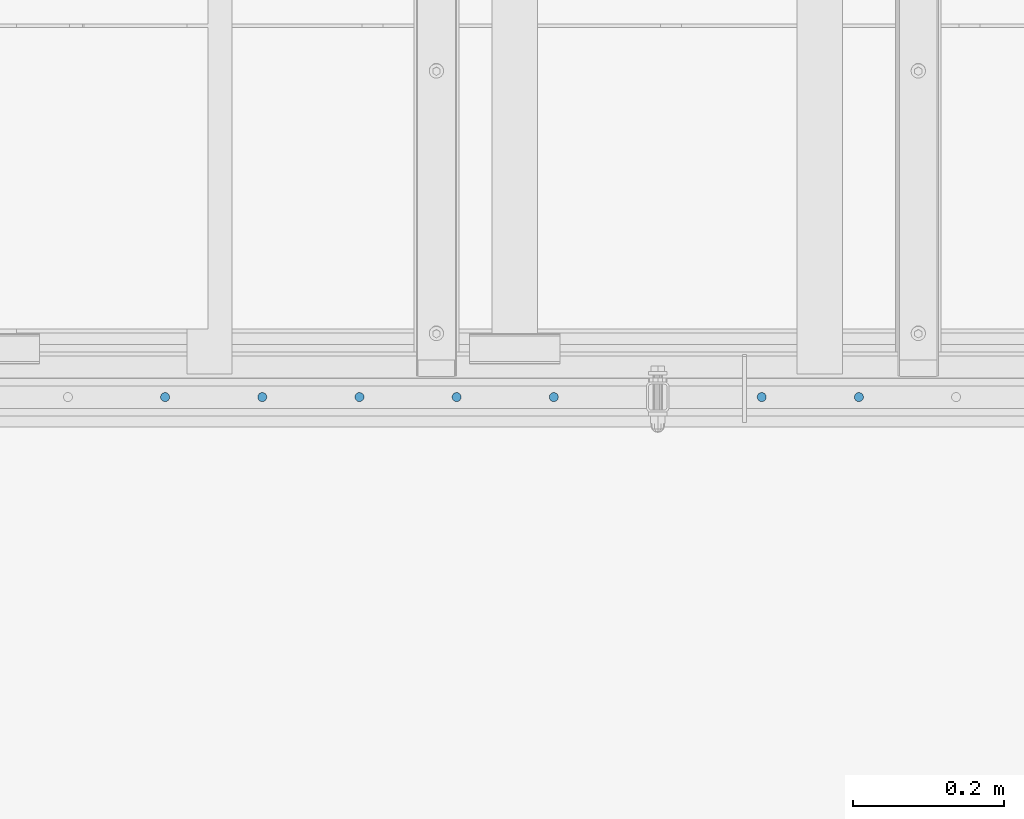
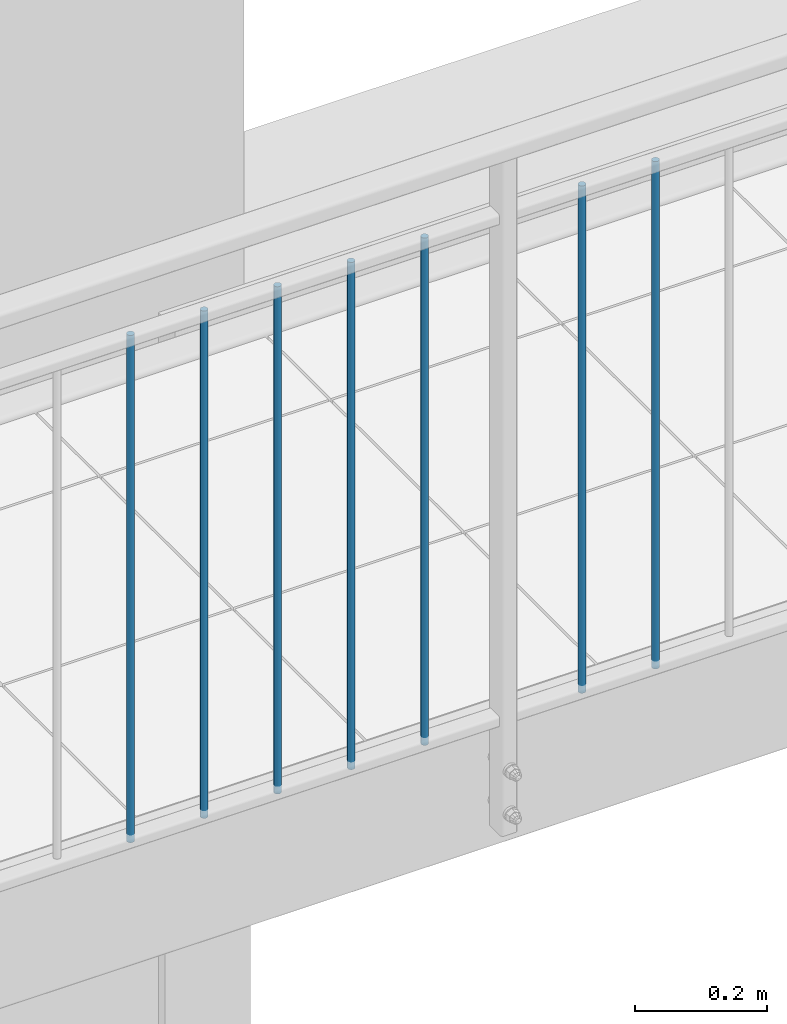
# One storey, part 21 of 162: 7 columns.
"""IFC2X3 building model written with IfcOpenShell, lengths in millimetres."""

from ifc_helpers import new_model, entity, si_unit, converted_unit, frame, origin, origin_with_axes, origin_2d, place, context, project, spatial, circle, extrude, material, element, save


model = new_model("IFC2X3")

# Units and contexts
model_context = context("Model", 3, precision=1e-09, world=origin_with_axes())
ifc_project = project(units=[si_unit("LENGTHUNIT", "METRE", prefix="MILLI"), si_unit("AREAUNIT", "SQUARE_METRE"), si_unit("VOLUMEUNIT", "CUBIC_METRE"), converted_unit("PLANEANGLEUNIT", "DEGREE", entity("IfcPlaneAngleMeasure", 0.01745329), si_unit("PLANEANGLEUNIT", "RADIAN"), dimensions=[0, 0, 0, 0, 0, 0, 0])], contexts=[model_context])

# Site, building, storey
site_placement = place(None, origin_with_axes())
site = spatial("IfcSite", under=ifc_project, at=site_placement, Name="Hermannstra?e 1a, 60318 Frankfurt", CompositionType="ELEMENT")
building_placement = place(site_placement, origin_with_axes())
building = spatial("IfcBuilding", under=site, at=building_placement, Name="Struktur 1", CompositionType="ELEMENT")
storey_placement = place(building_placement, origin_with_axes())
storey = spatial("IfcBuildingStorey", under=building, at=storey_placement, Name="Default Storey", CompositionType="ELEMENT", Elevation=0.0)

# Columns
ifc_material = material(Name="S235JR")
for number, where, z_axis, x_axis in (
    (1, (2870.023650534, 1515.609373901, 15261.999), (0.0, 0.0, -1.0), (1.0, 0.0, 0.0)),
    (2, (2998.880793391, 1515.609373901, 15261.999), (0.0, 0.0, -1.0), (1.0, 0.0, 0.0)),
    (3, (3127.737936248, 1515.609373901, 15261.999), (0.0, 0.0, -1.0), (1.0, 0.0, 0.0)),
    (4, (3256.595079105, 1515.609373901, 15261.999), (0.0, 0.0, -1.0), (1.0, 0.0, 0.0)),
    (5, (3385.452221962, 1515.609373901, 15261.999), (0.0, 0.0, -1.0), (1.0, 0.0, 0.0)),
    (6, (3661.166507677, 1515.609373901, 15261.999), (0.0, 0.0, -1.0), (1.0, 0.0, 0.0)),
    (7, (3790.023650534, 1515.609373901, 15261.999), (0.0, 0.0, -1.0), (1.0, 0.0, 0.0)),
):
    element("IfcColumn", number, at=place(None, frame(where, z_axis=z_axis, x_axis=x_axis)), inside=storey, material=ifc_material, Name="-", ObjectType="-", context=model_context, shape_type="SweptSolid", body=[
        extrude(circle(Radius=6.0, at=origin_2d()), origin(), (0.0, 0.0, -1.0), 940.0),
    ])

save(model, "model.ifc")
